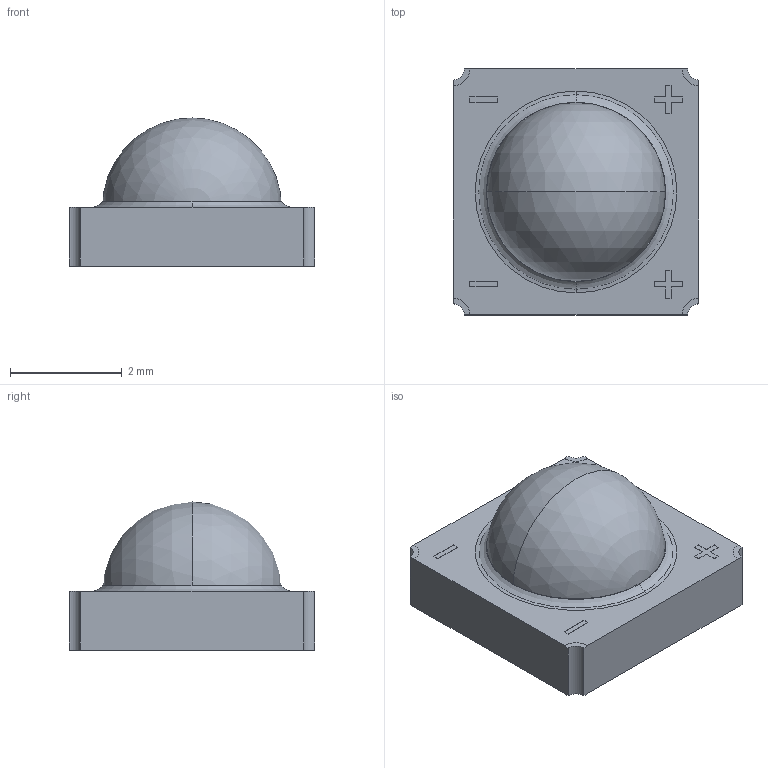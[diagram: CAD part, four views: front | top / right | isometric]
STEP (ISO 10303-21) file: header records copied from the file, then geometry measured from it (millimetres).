
FILE_DESCRIPTION (( 'STEP AP214' ), '1' );
FILE_NAME ('LZ1-00XX05-P3_LZ1_RevA2.STEP', '2013-07-03T22:46:21', ( '' ), ( '' ), 'SwSTEP 2.0', 'SolidWorks 2012', '' );
FILE_SCHEMA (( 'AUTOMOTIVE_DESIGN' ));
Length unit declared in the file: millimetre
Products named in the file (4): 2400-0025; silicone-seal_cpy_07-01-13; Ceramic_Base_4-4x4-4_with_Die; LZ1-00XX05-P3_LZ1_RevA2
Assembly tree (3 placements, depth 2):
  LZ1-00XX05-P3_LZ1_RevA2
    Ceramic_Base_4-4x4-4_with_Die
    silicone-seal_cpy_07-01-13
    2400-0025
Bounding box: 4.4 x 4.4 x 2.65 mm (x, y, z)
Volume: 25.4 mm3; surface area: 111.7 mm2
Topology: 9 solids, 9 shells, 141 faces, 363 edges, 241 vertices
Faces by surface type: plane 116, cylinder 15, sphere 4, bspline 2, cone 2, torus 2
Entity records: 5397 total; most frequent: CARTESIAN_POINT 805, ORIENTED_EDGE 710, DIRECTION 691, EDGE_CURVE 355, LINE 301, VECTOR 301, VERTEX_POINT 237, AXIS2_PLACEMENT_3D 195
